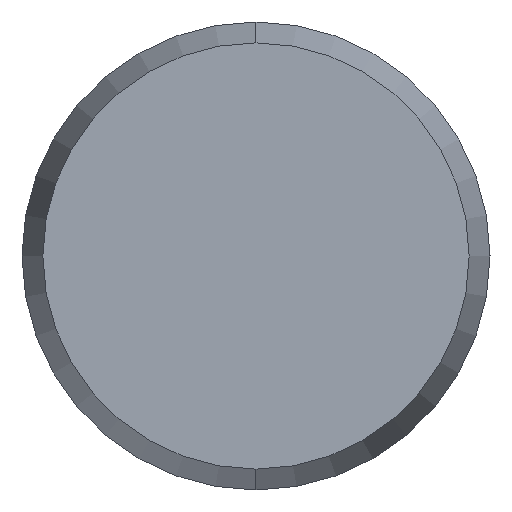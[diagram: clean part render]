
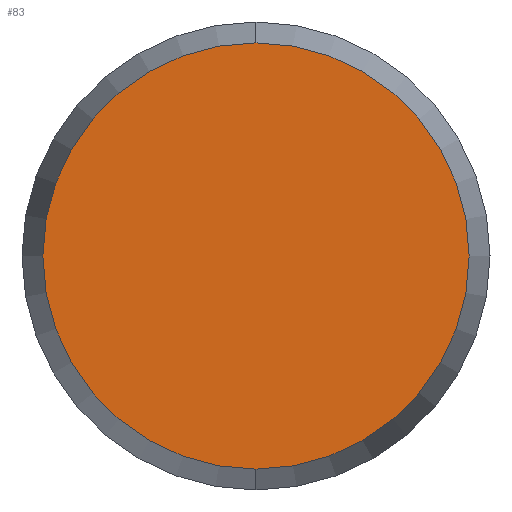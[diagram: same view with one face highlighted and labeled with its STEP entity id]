
A CAD part, left-side view. The second image highlights one B-rep face of the part: STEP entity #83.
In plain terms, the highlighted planar face has unit normal (-1, 0, 0).
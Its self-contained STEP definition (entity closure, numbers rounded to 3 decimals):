
#27 = VERTEX_POINT ( 'NONE', #219 ) ;
#28 = ORIENTED_EDGE ( 'NONE', *, *, #74, .F. ) ;
#29 = ORIENTED_EDGE ( 'NONE', *, *, #80, .F. ) ;
#74 = EDGE_CURVE ( 'NONE', #75, #27, #195, .T. ) ;
#75 = VERTEX_POINT ( 'NONE', #190 ) ;
#80 = EDGE_CURVE ( 'NONE', #27, #75, #109, .T. ) ;
#83 = ADVANCED_FACE ( 'NONE', ( #104 ), #103, .F. ) ;
#84 = EDGE_LOOP ( 'NONE', ( #28, #29 ) ) ;
#98 = DIRECTION ( 'NONE',  ( 0., 0., -1. ) ) ;
#99 = DIRECTION ( 'NONE',  ( 1., 0., 0. ) ) ;
#100 = CARTESIAN_POINT ( 'NONE',  ( -20., 0., 0. ) ) ;
#102 = AXIS2_PLACEMENT_3D ( 'NONE', #100, #99, #98 ) ;
#103 = PLANE ( 'NONE',  #102 ) ;
#104 = FACE_OUTER_BOUND ( 'NONE', #84, .T. ) ;
#105 = DIRECTION ( 'NONE',  ( 0., 0., -1. ) ) ;
#106 = DIRECTION ( 'NONE',  ( 1., 0., 0. ) ) ;
#107 = CARTESIAN_POINT ( 'NONE',  ( -20., 0., 0. ) ) ;
#108 = AXIS2_PLACEMENT_3D ( 'NONE', #107, #106, #105 ) ;
#109 = CIRCLE ( 'NONE', #108, 2.732 ) ;
#190 = CARTESIAN_POINT ( 'NONE',  ( -20., 0., 2.732 ) ) ;
#191 = DIRECTION ( 'NONE',  ( 0., 0., -1. ) ) ;
#192 = DIRECTION ( 'NONE',  ( 1., 0., 0. ) ) ;
#193 = CARTESIAN_POINT ( 'NONE',  ( -20., 0., 0. ) ) ;
#194 = AXIS2_PLACEMENT_3D ( 'NONE', #193, #192, #191 ) ;
#195 = CIRCLE ( 'NONE', #194, 2.732 ) ;
#219 = CARTESIAN_POINT ( 'NONE',  ( -20., 0., -2.732 ) ) ;
